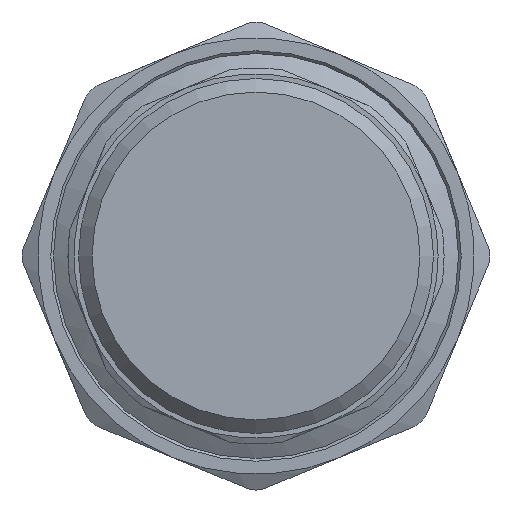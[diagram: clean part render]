
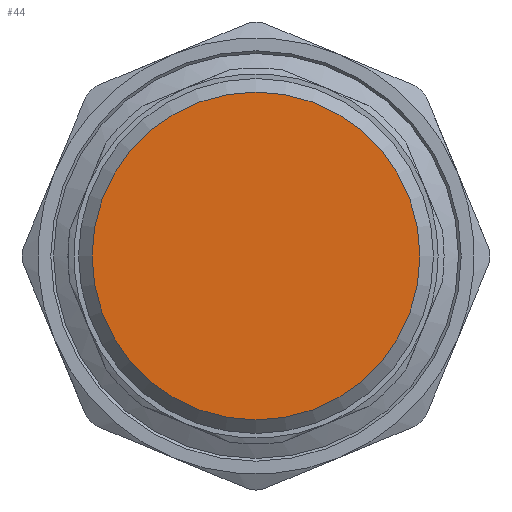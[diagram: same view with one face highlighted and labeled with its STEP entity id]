
A CAD part, front view. The second image highlights one B-rep face of the part: STEP entity #44.
In plain terms, the highlighted planar face has unit normal (0, -1, 0).
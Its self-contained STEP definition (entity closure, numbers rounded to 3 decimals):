
#44=ADVANCED_FACE('',(#104),#106,.F.);
#104=FACE_BOUND('',#105,.T.);
#105=EDGE_LOOP('',(#552));
#106=PLANE('',#107);
#107=AXIS2_PLACEMENT_3D('',#108,#109,#110);
#108=CARTESIAN_POINT('',(0.,0.,0.));
#109=DIRECTION('',(0.,1.,0.));
#110=DIRECTION('',(-1.,0.,0.));
#552=ORIENTED_EDGE('',*,*,#824,.F.);
#824=EDGE_CURVE('',#960,#960,#961,.T.);
#960=VERTEX_POINT('',#1188);
#961=CIRCLE('',#1189,19.355);
#1188=CARTESIAN_POINT('',(-19.355,0.,0.));
#1189=AXIS2_PLACEMENT_3D('',#1190,#1191,#1192);
#1190=CARTESIAN_POINT('',(0.,0.,0.));
#1191=DIRECTION('',(0.,1.,0.));
#1192=DIRECTION('',(-1.,0.,0.));
